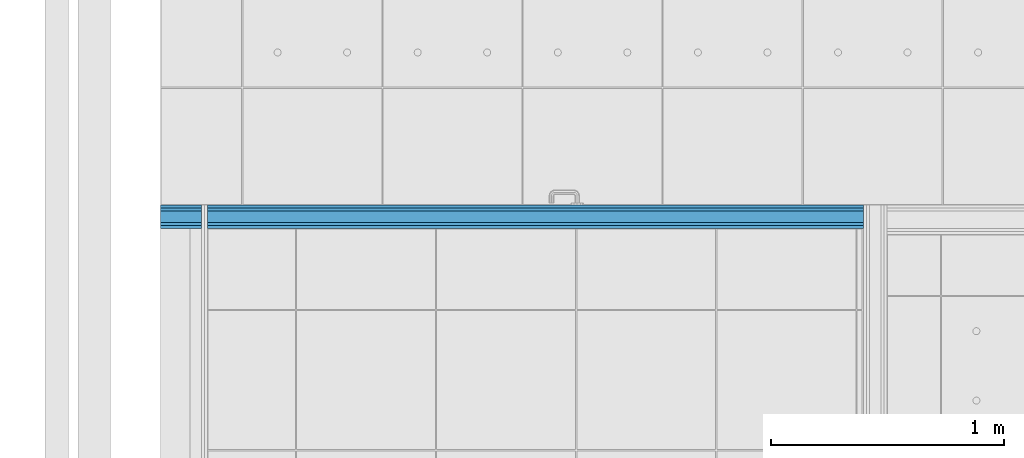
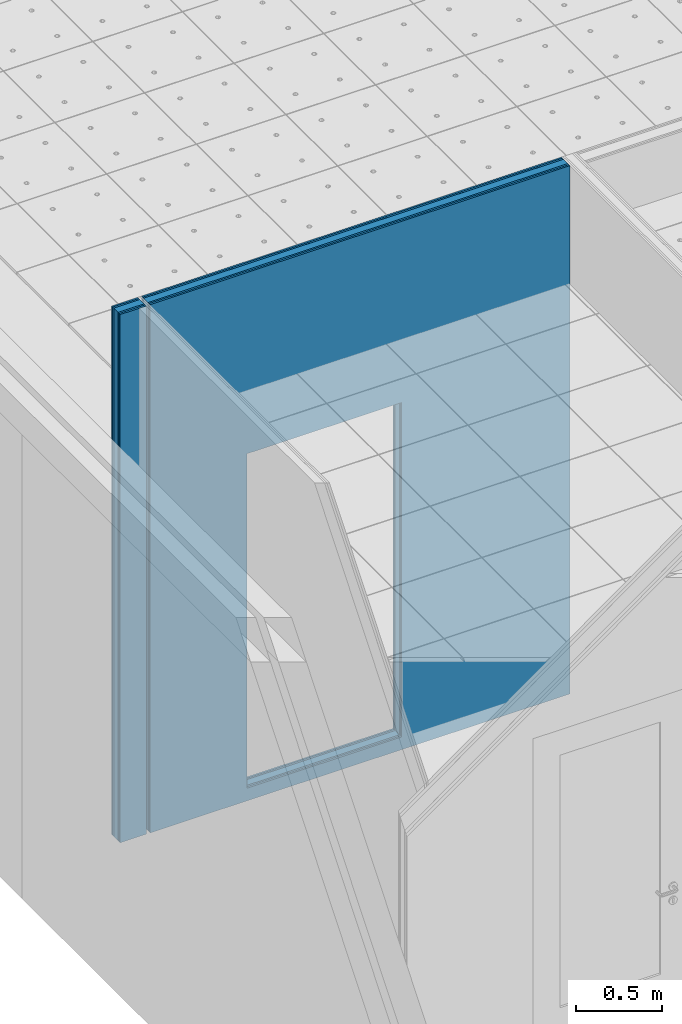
# One storey, part 51 of 338: 5 building element parts, 1 opening, 1 element without a shape of its own.
"""IFC2X3 building model written with IfcOpenShell, lengths in millimetres."""

from ifc_helpers import new_model, entity, si_unit, converted_unit, derived_unit, money_unit, direction, frame, origin_with_axes, place, context, subcontext, project, spatial, faceted_brep, material, type_object, element, aggregate, save


model = new_model("IFC2X3")

# Units and contexts
model_context = context("Model", 3, precision=0.01, world=origin_with_axes(), true_north=direction((0.0, 1.0)))
plan_context = context("Plan", 3, precision=0.01, world=origin_with_axes(), true_north=direction((0.0, 1.0)))
body_context = subcontext(model_context, "Body", "Model", "MODEL_VIEW")
ifc_project = project(units=[si_unit("LENGTHUNIT", "METRE", prefix="MILLI"), si_unit("AREAUNIT", "SQUARE_METRE"), si_unit("VOLUMEUNIT", "CUBIC_METRE"), converted_unit("PLANEANGLEUNIT", "DEGREE", entity("IfcPlaneAngleMeasure", 0.0174532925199), si_unit("PLANEANGLEUNIT", "RADIAN"), dimensions=[0, 0, 0, 0, 0, 0, 0]), money_unit("EUR"), converted_unit("TIMEUNIT", "Year", entity("IfcTimeMeasure", 31556926.0), si_unit("TIMEUNIT", "SECOND"), dimensions=[0, 0, 1, 0, 0, 0, 0]), si_unit("MASSUNIT", "GRAM", prefix="KILO"), si_unit("THERMODYNAMICTEMPERATUREUNIT", "DEGREE_CELSIUS"), si_unit("LUMINOUSINTENSITYUNIT", "LUMEN"), si_unit("ENERGYUNIT", "JOULE", prefix="MEGA"), derived_unit("THERMALCONDUCTANCEUNIT", [(si_unit("POWERUNIT", "WATT"), 1), (si_unit("LENGTHUNIT", "METRE"), -1), (si_unit("THERMODYNAMICTEMPERATUREUNIT", "KELVIN"), -1)]), derived_unit("SPECIFICHEATCAPACITYUNIT", [(si_unit("ENERGYUNIT", "JOULE"), 1), (si_unit("MASSUNIT", "GRAM", prefix="KILO"), -1), (si_unit("THERMODYNAMICTEMPERATUREUNIT", "KELVIN"), -1)]), derived_unit("MASSDENSITYUNIT", [(si_unit("MASSUNIT", "GRAM", prefix="KILO"), 1), (si_unit("VOLUMEUNIT", "CUBIC_METRE"), -1)])], contexts=[model_context, plan_context])

# Site, building, storey
site_placement = place(None, origin_with_axes())
site = spatial("IfcSite", under=ifc_project, at=site_placement, Name="Fortuinstraat Woensdrecht", CompositionType="ELEMENT")
building_placement = place(site_placement, origin_with_axes())
building = spatial("IfcBuilding", under=site, at=building_placement, Name="IKC Fortuna", CompositionType="ELEMENT")
storey_placement = place(building_placement, origin_with_axes())
storey = spatial("IfcBuildingStorey", under=building, at=storey_placement, Name="00 begane grond", CompositionType="ELEMENT", Elevation=0.0)

# Wall, opening, building element parts
wall_type = type_object("IfcWallType", Name="MS100 2.50.2A 100", PredefinedType="NOTDEFINED")
wall_placement = place(storey_placement, frame((13809.4349765, 26507.1110266, -90.0), z_axis=(0.0, 0.0, 1.0), x_axis=(1.0, 0.0, 0.0)))
wall = element("IfcWall", 1, at=wall_placement, inside=storey, type_object=wall_type, Name="22_Wand_Binnenwand")
opening_placement = place(wall_placement, frame((1367.09924661, 0.0, 90.0), z_axis=(0.0, 0.0, 1.0), x_axis=(1.0, 0.0, 0.0)))
element("IfcOpeningElement", 2, at=opening_placement, cuts=wall, Name="32_Deur_h.01c", context=body_context, shape_type="Brep", body=[
    faceted_brep([(-517.0, 200.0, 2367.0), (-517.0, 200.0, 0.0), (-517.0, -100.0, 0.0), (-517.0, -100.0, 2367.0), (517.0, 200.0, 2367.0), (517.0, 200.0, 0.0), (517.0, -100.0, 0.0), (517.0, -100.0, 2367.0)], [[[0, 1, 2, 3]], [[0, 4, 5, 1]], [[1, 5, 6, 2]], [[3, 2, 6, 7]], [[4, 0, 3, 7]], [[5, 4, 7, 6]]]),
])
ifc_material_1 = material(Name="Gipsplaat")
building_element_part_1_placement = place(wall_placement, origin_with_axes())
building_element_part_1 = element("IfcBuildingElementPart", 3, at=building_element_part_1_placement, material=ifc_material_1, Name="Gipsplaat", context=body_context, shape_type="Brep", body=[
    faceted_brep([(175.0, 100.0, 3740.0), (0.0, 100.0, 3740.0), (0.0, 87.5, 3740.0), (175.0, 87.5, 3740.0), (175.0, 100.0, 0.0), (0.0, 100.0, 0.0), (0.0, 87.5, 0.0), (175.0, 87.5, 0.0)], [[[0, 1, 2, 3]], [[4, 5, 1, 0]], [[2, 1, 5, 6]], [[3, 2, 6, 7]], [[3, 7, 4, 0]], [[7, 6, 5, 4]]]),
    faceted_brep([(200.0, 87.5, 3740.0), (200.0, 87.5, 0.0), (3010.09924661, 87.5, 0.0), (3010.09924661, 87.5, 3740.0), (850.099246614, 87.5, 90.0), (850.099246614, 87.5, 2457.0), (1884.09924661, 87.5, 2457.0), (1884.09924661, 87.5, 90.0), (200.0, 100.0, 3740.0), (200.0, 100.0, 0.0), (3010.09924661, 100.0, 0.0), (3010.09924661, 100.0, 3740.0), (850.099246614, 100.0, 90.0), (850.099246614, 100.0, 2457.0), (1884.09924661, 100.0, 2457.0), (1884.09924661, 100.0, 90.0)], [[[0, 1, 2, 3], [4, 5, 6, 7]], [[8, 9, 1, 0]], [[1, 9, 10, 2]], [[2, 10, 11, 3]], [[8, 0, 3, 11]], [[12, 13, 5, 4]], [[13, 14, 6, 5]], [[14, 15, 7, 6]], [[15, 12, 4, 7]], [[9, 8, 11, 10], [12, 15, 14, 13]]]),
])
building_element_part_2_placement = place(wall_placement, origin_with_axes())
building_element_part_2 = element("IfcBuildingElementPart", 4, at=building_element_part_2_placement, material=ifc_material_1, Name="Gipsplaat", context=body_context, shape_type="Brep", body=[
    faceted_brep([(175.0, 87.5, 3740.0), (0.0, 87.5, 3740.0), (0.0, 75.0, 3740.0), (175.0, 75.0, 3740.0), (175.0, 87.5, 0.0), (0.0, 87.5, 0.0), (0.0, 75.0, 0.0), (175.0, 75.0, 0.0)], [[[0, 1, 2, 3]], [[4, 5, 1, 0]], [[2, 1, 5, 6]], [[3, 2, 6, 7]], [[3, 7, 4, 0]], [[7, 6, 5, 4]]]),
    faceted_brep([(200.0, 75.0, 3740.0), (200.0, 75.0, 0.0), (3010.09924661, 75.0, 0.0), (3010.09924661, 75.0, 3740.0), (850.099246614, 75.0, 90.0), (850.099246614, 75.0, 2457.0), (1884.09924661, 75.0, 2457.0), (1884.09924661, 75.0, 90.0), (200.0, 87.5, 3740.0), (200.0, 87.5, 0.0), (3010.09924661, 87.5, 0.0), (3010.09924661, 87.5, 3740.0), (850.099246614, 87.5, 90.0), (850.099246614, 87.5, 2457.0), (1884.09924661, 87.5, 2457.0), (1884.09924661, 87.5, 90.0)], [[[0, 1, 2, 3], [4, 5, 6, 7]], [[8, 9, 1, 0]], [[1, 9, 10, 2]], [[2, 10, 11, 3]], [[8, 0, 3, 11]], [[12, 13, 5, 4]], [[13, 14, 6, 5]], [[14, 15, 7, 6]], [[15, 12, 4, 7]], [[9, 8, 11, 10], [12, 15, 14, 13]]]),
])
ifc_material_2 = material(Name="Isolatie - Steenwol LSW")
building_element_part_3_placement = place(wall_placement, origin_with_axes())
building_element_part_3 = element("IfcBuildingElementPart", 5, at=building_element_part_3_placement, material=ifc_material_2, Name="Isolatie - Steenwol LSW", context=body_context, shape_type="Brep", body=[
    faceted_brep([(175.0, 75.0, 3740.0), (0.0, 75.0, 3740.0), (0.0, 25.0, 3740.0), (175.0, 25.0, 3740.0), (175.0, 75.0, 0.0), (0.0, 75.0, 0.0), (0.0, 25.0, 0.0), (175.0, 25.0, 0.0)], [[[0, 1, 2, 3]], [[4, 5, 1, 0]], [[2, 1, 5, 6]], [[3, 2, 6, 7]], [[3, 7, 4, 0]], [[7, 6, 5, 4]]]),
    faceted_brep([(200.0, 25.0, 3740.0), (200.0, 25.0, 0.0), (3010.09924661, 25.0, 0.0), (3010.09924661, 25.0, 3740.0), (850.099246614, 25.0, 90.0), (850.099246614, 25.0, 2457.0), (1884.09924661, 25.0, 2457.0), (1884.09924661, 25.0, 90.0), (200.0, 75.0, 3740.0), (200.0, 75.0, 0.0), (3010.09924661, 75.0, 0.0), (3010.09924661, 75.0, 3740.0), (850.099246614, 75.0, 90.0), (850.099246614, 75.0, 2457.0), (1884.09924661, 75.0, 2457.0), (1884.09924661, 75.0, 90.0)], [[[0, 1, 2, 3], [4, 5, 6, 7]], [[8, 9, 1, 0]], [[1, 9, 10, 2]], [[2, 10, 11, 3]], [[8, 0, 3, 11]], [[12, 13, 5, 4]], [[13, 14, 6, 5]], [[14, 15, 7, 6]], [[15, 12, 4, 7]], [[9, 8, 11, 10], [12, 15, 14, 13]]]),
])
building_element_part_4_placement = place(wall_placement, origin_with_axes())
building_element_part_4 = element("IfcBuildingElementPart", 6, at=building_element_part_4_placement, material=ifc_material_1, Name="Gipsplaat", context=body_context, shape_type="Brep", body=[
    faceted_brep([(175.0, 25.0, 3740.0), (0.0, 25.0, 3740.0), (0.0, 12.5, 3740.0), (175.0, 12.5, 3740.0), (175.0, 25.0, 0.0), (0.0, 25.0, 0.0), (0.0, 12.5, 0.0), (175.0, 12.5, 0.0)], [[[0, 1, 2, 3]], [[4, 5, 1, 0]], [[2, 1, 5, 6]], [[3, 2, 6, 7]], [[3, 7, 4, 0]], [[7, 6, 5, 4]]]),
    faceted_brep([(200.0, 12.5, 3740.0), (200.0, 12.5, 0.0), (3010.09924661, 12.5, 0.0), (3010.09924661, 12.5, 3740.0), (850.099246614, 12.5, 90.0), (850.099246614, 12.5, 2457.0), (1884.09924661, 12.5, 2457.0), (1884.09924661, 12.5, 90.0), (200.0, 25.0, 3740.0), (200.0, 25.0, 0.0), (3010.09924661, 25.0, 0.0), (3010.09924661, 25.0, 3740.0), (850.099246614, 25.0, 90.0), (850.099246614, 25.0, 2457.0), (1884.09924661, 25.0, 2457.0), (1884.09924661, 25.0, 90.0)], [[[0, 1, 2, 3], [4, 5, 6, 7]], [[8, 9, 1, 0]], [[1, 9, 10, 2]], [[2, 10, 11, 3]], [[8, 0, 3, 11]], [[12, 13, 5, 4]], [[13, 14, 6, 5]], [[14, 15, 7, 6]], [[15, 12, 4, 7]], [[9, 8, 11, 10], [12, 15, 14, 13]]]),
])
building_element_part_5_placement = place(wall_placement, origin_with_axes())
building_element_part_5 = element("IfcBuildingElementPart", 7, at=building_element_part_5_placement, material=ifc_material_1, Name="Gipsplaat", context=body_context, shape_type="Brep", body=[
    faceted_brep([(175.0, 12.5, 3740.0), (0.0, 12.5, 3740.0), (0.0, 0.0, 3740.0), (175.0, 0.0, 3740.0), (175.0, 12.5, 0.0), (0.0, 12.5, 0.0), (0.0, 0.0, 0.0), (175.0, 0.0, 0.0)], [[[0, 1, 2, 3]], [[4, 5, 1, 0]], [[2, 1, 5, 6]], [[3, 2, 6, 7]], [[3, 7, 4, 0]], [[7, 6, 5, 4]]]),
    faceted_brep([(200.0, 0.0, 3740.0), (200.0, 0.0, 0.0), (3010.09924661, 0.0, 0.0), (3010.09924661, 0.0, 3740.0), (850.099246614, 0.0, 90.0), (850.099246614, 0.0, 2457.0), (1884.09924661, 0.0, 2457.0), (1884.09924661, 0.0, 90.0), (200.0, 12.5, 3740.0), (200.0, 12.5, 0.0), (3010.09924661, 12.5, 0.0), (3010.09924661, 12.5, 3740.0), (850.099246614, 12.5, 90.0), (850.099246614, 12.5, 2457.0), (1884.09924661, 12.5, 2457.0), (1884.09924661, 12.5, 90.0)], [[[0, 1, 2, 3], [4, 5, 6, 7]], [[8, 9, 1, 0]], [[1, 9, 10, 2]], [[2, 10, 11, 3]], [[8, 0, 3, 11]], [[12, 13, 5, 4]], [[13, 14, 6, 5]], [[14, 15, 7, 6]], [[15, 12, 4, 7]], [[9, 8, 11, 10], [12, 15, 14, 13]]]),
])
aggregate(wall, [building_element_part_1, building_element_part_2, building_element_part_3, building_element_part_4, building_element_part_5])

save(model, "model.ifc")
